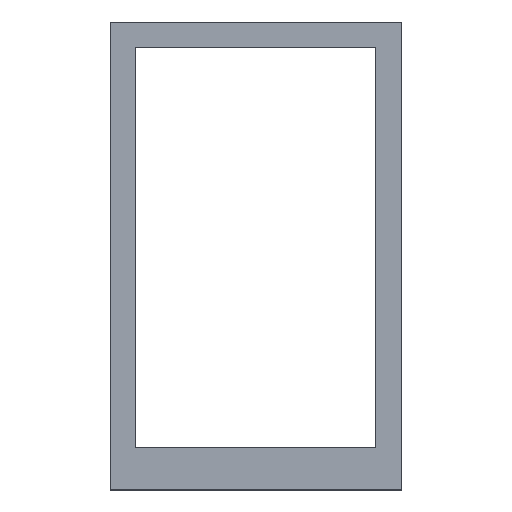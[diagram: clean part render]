
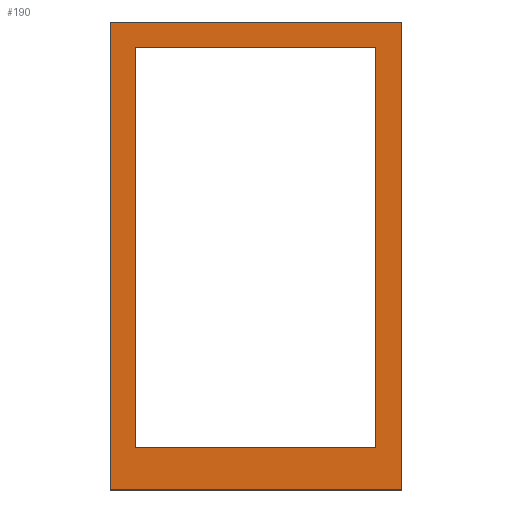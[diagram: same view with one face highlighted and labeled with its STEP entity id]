
A CAD part, top view. The second image highlights one B-rep face of the part: STEP entity #190.
In plain terms, the highlighted planar face has unit normal (0, 0, 1).
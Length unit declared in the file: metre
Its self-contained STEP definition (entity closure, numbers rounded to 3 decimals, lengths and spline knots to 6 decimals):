
#44=ORIENTED_EDGE('',*,*,#72,.T.);
#45=ORIENTED_EDGE('',*,*,#76,.T.);
#46=ORIENTED_EDGE('',*,*,#79,.F.);
#47=ORIENTED_EDGE('',*,*,#81,.F.);
#48=ORIENTED_EDGE('',*,*,#62,.F.);
#49=ORIENTED_EDGE('',*,*,#66,.T.);
#50=ORIENTED_EDGE('',*,*,#69,.T.);
#51=ORIENTED_EDGE('',*,*,#83,.F.);
#62=EDGE_CURVE('',#86,#87,#102,.T.);
#66=EDGE_CURVE('',#86,#89,#106,.T.);
#69=EDGE_CURVE('',#89,#91,#109,.T.);
#72=EDGE_CURVE('',#95,#94,#112,.T.);
#76=EDGE_CURVE('',#94,#97,#116,.T.);
#79=EDGE_CURVE('',#99,#97,#119,.T.);
#81=EDGE_CURVE('',#95,#99,#121,.T.);
#83=EDGE_CURVE('',#87,#91,#123,.T.);
#86=VERTEX_POINT('',#267);
#87=VERTEX_POINT('',#269);
#89=VERTEX_POINT('',#275);
#91=VERTEX_POINT('',#281);
#94=VERTEX_POINT('',#288);
#95=VERTEX_POINT('',#290);
#97=VERTEX_POINT('',#296);
#99=VERTEX_POINT('',#302);
#102=LINE('',#268,#126);
#106=LINE('',#276,#130);
#109=LINE('',#282,#133);
#112=LINE('',#289,#136);
#116=LINE('',#297,#140);
#119=LINE('',#303,#143);
#121=LINE('',#306,#145);
#123=LINE('',#309,#147);
#126=VECTOR('',#221,1.);
#130=VECTOR('',#227,1.);
#133=VECTOR('',#232,1.);
#136=VECTOR('',#237,1.);
#140=VECTOR('',#243,1.);
#143=VECTOR('',#248,1.);
#145=VECTOR('',#252,1.);
#147=VECTOR('',#256,1.);
#156=EDGE_LOOP('',(#44,#45,#46,#47));
#157=EDGE_LOOP('',(#48,#49,#50,#51));
#168=FACE_BOUND('',#156,.T.);
#169=FACE_BOUND('',#157,.T.);
#180=PLANE('',#213);
#190=ADVANCED_FACE('',(#168,#169),#180,.T.);
#213=AXIS2_PLACEMENT_3D('',#310,#257,#258);
#221=DIRECTION('',(0.,-1.,0.));
#227=DIRECTION('',(1.,0.,0.));
#232=DIRECTION('',(0.,-1.,0.));
#237=DIRECTION('',(0.,1.,0.));
#243=DIRECTION('',(-1.,0.,0.));
#248=DIRECTION('',(0.,1.,0.));
#252=DIRECTION('',(-1.,0.,0.));
#256=DIRECTION('',(1.,0.,0.));
#257=DIRECTION('',(0.,0.,1.));
#258=DIRECTION('',(1.,0.,0.));
#267=CARTESIAN_POINT('',(0.04677,0.02614,0.00451));
#268=CARTESIAN_POINT('',(0.04677,-0.05261,0.00451));
#269=CARTESIAN_POINT('',(0.04677,-0.06746,0.00451));
#275=CARTESIAN_POINT('',(0.10293,0.02614,0.00451));
#276=CARTESIAN_POINT('',(0.07485,0.02614,0.00451));
#281=CARTESIAN_POINT('',(0.10293,-0.06746,0.00451));
#282=CARTESIAN_POINT('',(0.10293,-0.05261,0.00451));
#288=CARTESIAN_POINT('',(0.10907,0.03214,0.00451));
#289=CARTESIAN_POINT('',(0.10907,-0.07611,0.00451));
#290=CARTESIAN_POINT('',(0.10907,-0.07736,0.00451));
#296=CARTESIAN_POINT('',(0.04077,0.03214,0.00451));
#297=CARTESIAN_POINT('',(0.05677,0.03214,0.00451));
#302=CARTESIAN_POINT('',(0.04077,-0.07736,0.00451));
#303=CARTESIAN_POINT('',(0.04077,-0.07611,0.00451));
#306=CARTESIAN_POINT('',(0.07492,-0.07736,0.00451));
#309=CARTESIAN_POINT('',(0.07485,-0.06746,0.00451));
#310=CARTESIAN_POINT('',(0.02832,-0.02261,0.00451));
